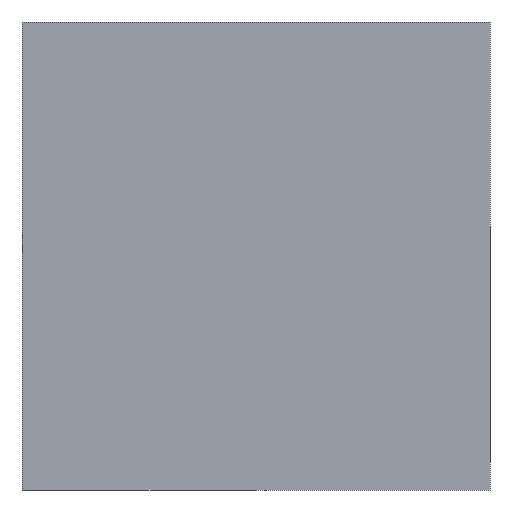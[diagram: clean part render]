
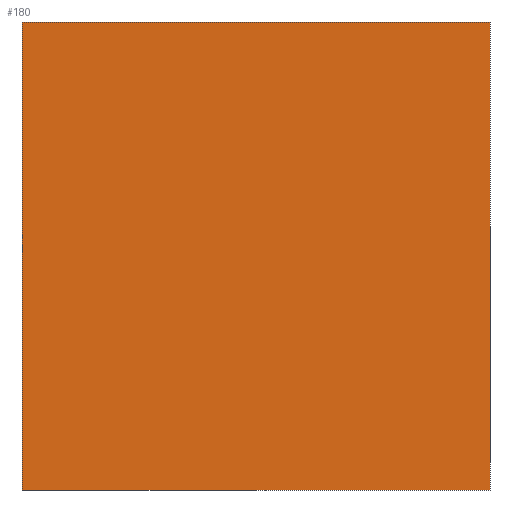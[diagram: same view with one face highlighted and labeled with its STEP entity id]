
A CAD part, left-side view. The second image highlights one B-rep face of the part: STEP entity #180.
In plain terms, the highlighted planar face has unit normal (-1, 0, 0).
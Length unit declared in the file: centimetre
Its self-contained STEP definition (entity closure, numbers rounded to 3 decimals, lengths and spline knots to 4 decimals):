
#9 = DIRECTION ( 'NONE',  ( 0., -1., 0. ) ) ;
#10 = CARTESIAN_POINT ( 'NONE',  ( 0., 1000., 0. ) ) ;
#16 = EDGE_CURVE ( 'NONE', #138, #375, #34, .T. ) ;
#17 = VECTOR ( 'NONE', #220, 100. ) ;
#28 = VECTOR ( 'NONE', #9, 100. ) ;
#32 = DIRECTION ( 'NONE',  ( 1., 0., 0. ) ) ;
#34 = LINE ( 'NONE', #40, #388 ) ;
#39 = ORIENTED_EDGE ( 'NONE', *, *, #349, .F. ) ;
#40 = CARTESIAN_POINT ( 'NONE',  ( 0., 1000., 1000. ) ) ;
#74 = LINE ( 'NONE', #174, #91 ) ;
#86 = EDGE_CURVE ( 'NONE', #234, #294, #74, .T. ) ;
#91 = VECTOR ( 'NONE', #296, 100. ) ;
#93 = CARTESIAN_POINT ( 'NONE',  ( 0., 1000., 1000. ) ) ;
#105 = CARTESIAN_POINT ( 'NONE',  ( 0., 0., 1000. ) ) ;
#134 = DIRECTION ( 'NONE',  ( 0., 0., -1. ) ) ;
#138 = VERTEX_POINT ( 'NONE', #225 ) ;
#167 = AXIS2_PLACEMENT_3D ( 'NONE', #93, #32, #302 ) ;
#174 = CARTESIAN_POINT ( 'NONE',  ( 0., 0., 1000. ) ) ;
#176 = CARTESIAN_POINT ( 'NONE',  ( 0., 0., 0. ) ) ;
#180 = ADVANCED_FACE ( 'NONE', ( #425 ), #394, .F. ) ;
#183 = LINE ( 'NONE', #379, #28 ) ;
#220 = DIRECTION ( 'NONE',  ( 0., -1., 0. ) ) ;
#225 = CARTESIAN_POINT ( 'NONE',  ( 0., 1000., 1000. ) ) ;
#226 = EDGE_CURVE ( 'NONE', #375, #294, #256, .T. ) ;
#234 = VERTEX_POINT ( 'NONE', #105 ) ;
#256 = LINE ( 'NONE', #265, #17 ) ;
#265 = CARTESIAN_POINT ( 'NONE',  ( 0., 1000., 0. ) ) ;
#294 = VERTEX_POINT ( 'NONE', #176 ) ;
#296 = DIRECTION ( 'NONE',  ( 0., 0., -1. ) ) ;
#302 = DIRECTION ( 'NONE',  ( 0., 0., -1. ) ) ;
#332 = ORIENTED_EDGE ( 'NONE', *, *, #16, .T. ) ;
#349 = EDGE_CURVE ( 'NONE', #138, #234, #183, .T. ) ;
#357 = ORIENTED_EDGE ( 'NONE', *, *, #226, .T. ) ;
#375 = VERTEX_POINT ( 'NONE', #10 ) ;
#379 = CARTESIAN_POINT ( 'NONE',  ( 0., 1000., 1000. ) ) ;
#388 = VECTOR ( 'NONE', #134, 100. ) ;
#394 = PLANE ( 'NONE',  #167 ) ;
#425 = FACE_OUTER_BOUND ( 'NONE', #437, .T. ) ;
#437 = EDGE_LOOP ( 'NONE', ( #357, #438, #39, #332 ) ) ;
#438 = ORIENTED_EDGE ( 'NONE', *, *, #86, .F. ) ;
